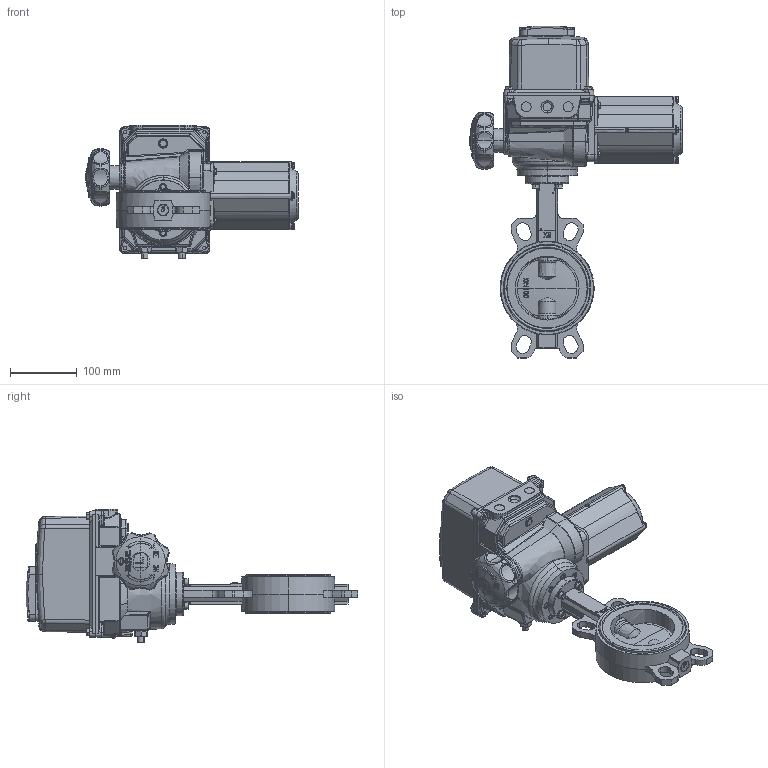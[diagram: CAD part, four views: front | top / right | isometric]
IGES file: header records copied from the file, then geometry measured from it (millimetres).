
Start section: SolidWorks IGES file using NURBS representation for surfaces
Global section: file name: H:\BE BIBLIOTHEQUE 3D\Projet_Biblio3D_2016\FSK\VPI\VPI-B04\VPI-B24 DN 100.Igs; native system: SolidWorks 2014; preprocessor: SolidWorks 2014; author: a.cartier; date: 160929.170013; units: millimetre
Bounding box: 319.25 x 498.7 x 199.8 mm (x, y, z)
Volume: 5580529.3 mm3; surface area: 380694 mm2
Topology: 14 solids, 14 shells, 2360 faces, 6153 edges, 3858 vertices
Faces by surface type: bspline 2360
